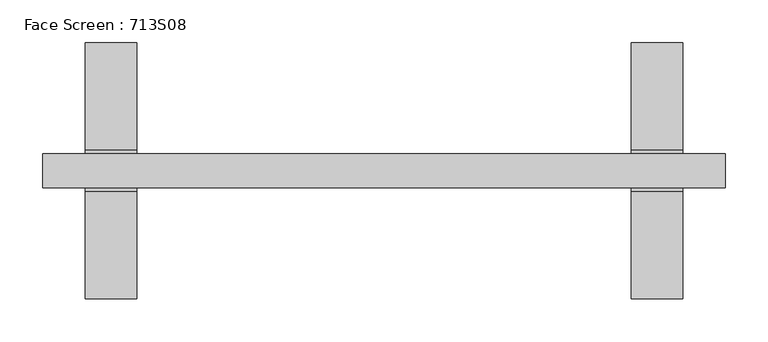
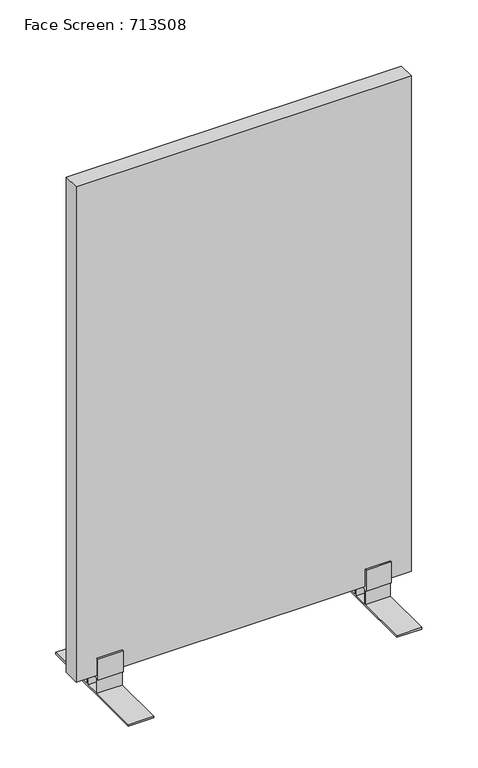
"""IFC4 building model written with IfcOpenShell, lengths in millimetres: furniture geometry, Face Screen : 713S08."""

from ifc_helpers import new_model, si_unit, frame, origin, place, context, project, spatial, polyline, outline, extrude, source, transform, mapped, element, save


def face_screen_713s08_463c1df5(model_context):
    return source(origin(), model_context, "Body", "SweptSolid", [
        extrude(outline(polyline([(-20.0, 4.0), (-20.0, 40.0), (-24.0, 40.0), (-24.0000047, 93.0166638), (-20.0, 93.0166638), (-20.0, 50.0955899), (20.0, 50.0955899), (20.0, 93.0166638), (24.0, 93.0166638), (23.9999953, 40.0), (20.0, 40.0), (20.0, 4.0), (149.9935713, 4.0), (149.9935713, 0.0), (-150.0064287, 0.0), (-150.0064287, 4.0), (-20.0, 4.0)]), holes=[polyline([(16.0, 40.0), (-16.0, 40.0), (-16.0, 4.0), (16.0, 4.0), (16.0, 40.0)])]), frame((290.0, 0.0, 0.0), z_axis=(1.0, 0.0, 0.0), x_axis=(0.0, 1.0, 0.0)), (0.0, 0.0, 1.0), 60.0),
        extrude(outline(polyline([(20.0, 4.0), (150.0064287, 4.0), (150.0064287, 0.0), (-149.9935713, 0.0), (-149.9935713, 4.0), (-20.0, 4.0), (-20.0, 40.0), (-23.9999953, 40.0), (-24.0, 93.0166638), (-20.0, 93.0166638), (-20.0, 50.0955899), (20.0, 50.0955899), (20.0, 93.0166638), (24.0000047, 93.0166638), (24.0, 40.0), (20.0, 40.0), (20.0, 4.0)]), holes=[polyline([(-16.0, 40.0), (-16.0, 4.0), (16.0, 4.0), (16.0, 40.0), (-16.0, 40.0)])]), frame((-350.0, 0.0, 0.0), z_axis=(1.0, 0.0, 0.0), x_axis=(0.0, 1.0, 0.0)), (0.0, 0.0, 1.0), 60.0),
        extrude(outline(polyline([(400.0, 20.0), (400.0, -20.0), (-400.0, -20.0), (-400.0, 20.0), (400.0, 20.0)])), frame((0.0, 0.0, 50.0), z_axis=(0.0, 0.0, 1.0), x_axis=(1.0, 0.0, 0.0)), (0.0, 0.0, 1.0), 1250.0),
    ])


if __name__ == "__main__":
    model = new_model("IFC4")
    model_context = context("Model", 3, world=origin())
    ifc_project = project(units=[si_unit("LENGTHUNIT", "METRE", prefix="MILLI")], contexts=[model_context])
    site = spatial("IfcSite", under=ifc_project)
    building = spatial("IfcBuilding", under=site)
    placement = place(None, origin())
    face_screen_713s08_shape = face_screen_713s08_463c1df5(model_context)
    element("IfcFurniture", 1, ObjectType="Face Screen : 713S08", at=placement, inside=building, context=model_context, shape_type="MappedRepresentation", body=[
        mapped(face_screen_713s08_shape, transform((0.0, 0.0, 0.0), x_axis=(1.0, 0.0, 0.0), y_axis=(0.0, 1.0, 0.0), z_axis=(0.0, 0.0, 1.0))),
    ])
    save(model, "model.ifc")
